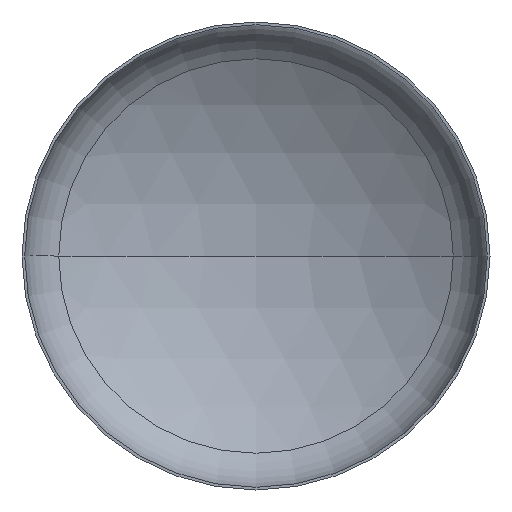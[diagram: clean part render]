
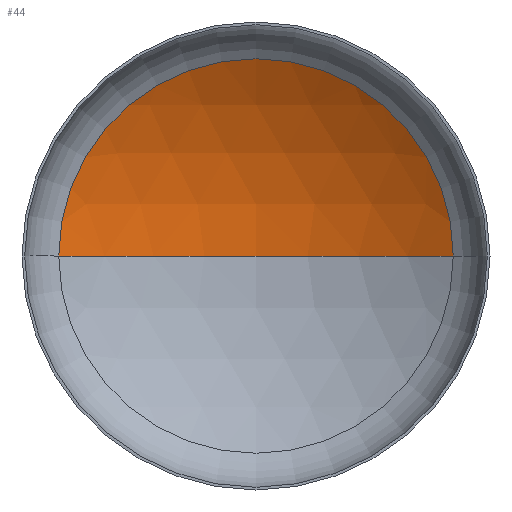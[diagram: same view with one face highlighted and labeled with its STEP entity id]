
A CAD part, front view. The second image highlights one B-rep face of the part: STEP entity #44.
In plain terms, the highlighted spherical face has radius 4400 mm.
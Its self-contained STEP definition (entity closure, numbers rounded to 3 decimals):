
#9 = DIRECTION ( 'NONE',  ( 1., 0., 0. ) ) ;
#44 = ADVANCED_FACE ( 'NONE', ( #169 ), #257, .F. ) ;
#47 = AXIS2_PLACEMENT_3D ( 'NONE', #356, #165, #386 ) ;
#60 = CIRCLE ( 'NONE', #47, 2318.2 ) ;
#93 = EDGE_CURVE ( 'NONE', #337, #143, #158, .T. ) ;
#94 = CARTESIAN_POINT ( 'NONE',  ( 0., -2921.572, 0. ) ) ;
#120 = EDGE_CURVE ( 'NONE', #337, #191, #401, .T. ) ;
#128 = DIRECTION ( 'NONE',  ( -1., 0., 0. ) ) ;
#135 = DIRECTION ( 'NONE',  ( -1., 0., 0. ) ) ;
#140 = DIRECTION ( 'NONE',  ( 0., 0., -1. ) ) ;
#142 = EDGE_CURVE ( 'NONE', #191, #143, #60, .T. ) ;
#143 = VERTEX_POINT ( 'NONE', #329 ) ;
#158 = CIRCLE ( 'NONE', #354, 4400. ) ;
#165 = DIRECTION ( 'NONE',  ( 0., -1., 0. ) ) ;
#169 = FACE_OUTER_BOUND ( 'NONE', #186, .T. ) ;
#186 = EDGE_LOOP ( 'NONE', ( #372, #283, #208 ) ) ;
#191 = VERTEX_POINT ( 'NONE', #301 ) ;
#208 = ORIENTED_EDGE ( 'NONE', *, *, #142, .T. ) ;
#220 = CARTESIAN_POINT ( 'NONE',  ( 0., -2921.572, 0. ) ) ;
#253 = CARTESIAN_POINT ( 'NONE',  ( 0., -2921.572, 0. ) ) ;
#257 = SPHERICAL_SURFACE ( 'NONE', #297, 4400. ) ;
#283 = ORIENTED_EDGE ( 'NONE', *, *, #120, .T. ) ;
#297 = AXIS2_PLACEMENT_3D ( 'NONE', #220, #140, #135 ) ;
#301 = CARTESIAN_POINT ( 'NONE',  ( 2318.2, 818.208, 0. ) ) ;
#328 = DIRECTION ( 'NONE',  ( 0., 0., -1. ) ) ;
#329 = CARTESIAN_POINT ( 'NONE',  ( -2318.2, 818.208, 0. ) ) ;
#337 = VERTEX_POINT ( 'NONE', #394 ) ;
#354 = AXIS2_PLACEMENT_3D ( 'NONE', #253, #406, #9 ) ;
#356 = CARTESIAN_POINT ( 'NONE',  ( 0., 818.208, 0. ) ) ;
#372 = ORIENTED_EDGE ( 'NONE', *, *, #93, .F. ) ;
#378 = AXIS2_PLACEMENT_3D ( 'NONE', #94, #328, #128 ) ;
#386 = DIRECTION ( 'NONE',  ( 1., 0., 0. ) ) ;
#394 = CARTESIAN_POINT ( 'NONE',  ( 0., 1478.428, 0. ) ) ;
#401 = CIRCLE ( 'NONE', #378, 4400. ) ;
#406 = DIRECTION ( 'NONE',  ( 0., 0., 1. ) ) ;
